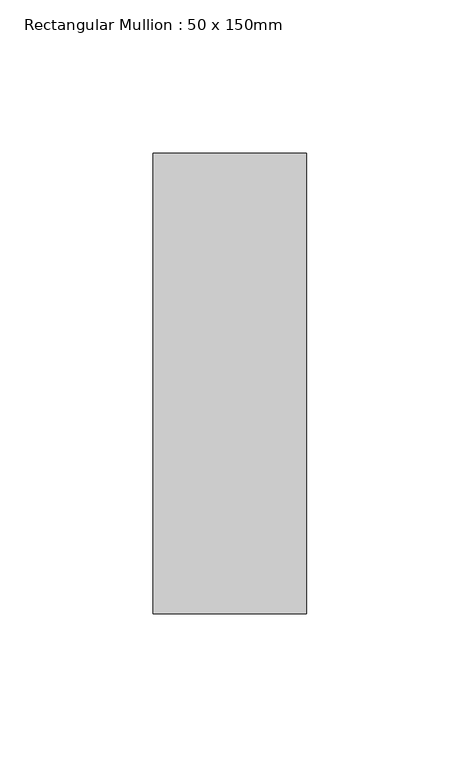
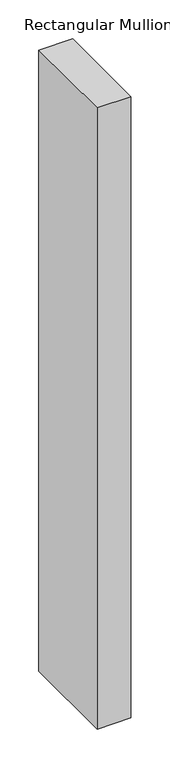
"""IFC4 building model written with IfcOpenShell, lengths in millimetres: member geometry, Rectangular Mullion : 50 x 150mm."""

from ifc_helpers import new_model, si_unit, frame, origin, place, context, project, spatial, polyline, outline, extrude, source, transform, mapped, element, save


def rectangular_mullion_50_x_150mm_bb797b61(model_context):
    return source(origin(), model_context, "Body", "SweptSolid", [
        extrude(outline(polyline([(25.0, 75.0), (25.0, -75.0), (-25.0, -75.0), (-25.0, 75.0), (25.0, 75.0)])), frame((0.0, 0.0, -975.0), z_axis=(0.0, 0.0, 1.0), x_axis=(1.0, 0.0, 0.0)), (0.0, 0.0, 1.0), 975.0),
    ])


if __name__ == "__main__":
    model = new_model("IFC4")
    model_context = context("Model", 3, world=origin())
    ifc_project = project(units=[si_unit("LENGTHUNIT", "METRE", prefix="MILLI")], contexts=[model_context])
    site = spatial("IfcSite", under=ifc_project)
    building = spatial("IfcBuilding", under=site)
    placement = place(None, origin())
    rectangular_mullion_50_x_150mm_shape = rectangular_mullion_50_x_150mm_bb797b61(model_context)
    element("IfcMember", 1, ObjectType="Rectangular Mullion : 50 x 150mm", at=placement, inside=building, context=model_context, shape_type="MappedRepresentation", body=[
        mapped(rectangular_mullion_50_x_150mm_shape, transform((0.0, 0.0, 0.0), x_axis=(1.0, 0.0, 0.0), y_axis=(0.0, 1.0, 0.0), z_axis=(0.0, 0.0, 1.0))),
    ])
    save(model, "model.ifc")
